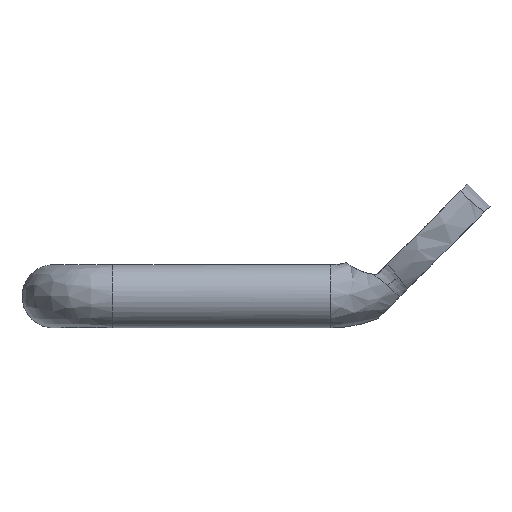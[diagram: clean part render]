
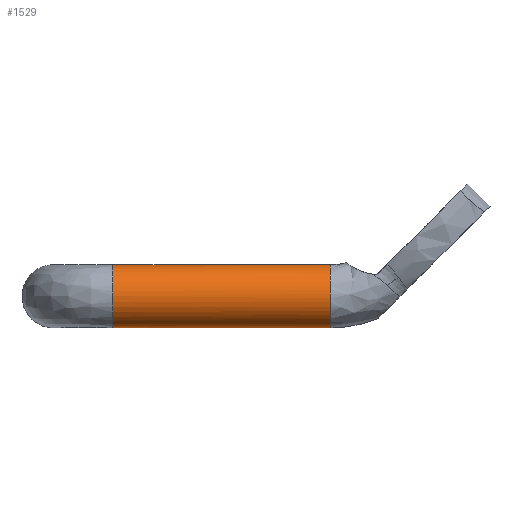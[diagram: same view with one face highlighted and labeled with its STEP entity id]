
A CAD part, left-side view. The second image highlights one B-rep face of the part: STEP entity #1529.
In plain terms, the highlighted cylindrical face has radius 4 mm (diameter 8 mm), a partial arc.
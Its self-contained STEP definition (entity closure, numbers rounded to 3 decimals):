
#35 = ORIENTED_EDGE ( 'NONE', *, *, #1481, .T. ) ;
#131 = AXIS2_PLACEMENT_3D ( 'NONE', #1659, #1035, #1808 ) ;
#201 = CARTESIAN_POINT ( 'NONE',  ( -50., 32.5, -4. ) ) ;
#238 =( BOUNDED_CURVE ( )  B_SPLINE_CURVE ( 3, ( #1841, #1207, #1700, #1385, #899, #2015, #1708 ),
 .UNSPECIFIED., .F., .F. ) 
 B_SPLINE_CURVE_WITH_KNOTS ( ( 4, 3, 4 ),
 ( 0., 0.5, 1. ),
 .UNSPECIFIED. ) 
 CURVE ( )  GEOMETRIC_REPRESENTATION_ITEM ( )  RATIONAL_B_SPLINE_CURVE ( ( 0.974, 0.79, 0.799, 1., 0.799, 0.79, 0.974 ) ) 
 REPRESENTATION_ITEM ( '' )  );
#277 = EDGE_LOOP ( 'NONE', ( #1973, #948, #35, #1707 ) ) ;
#337 = FACE_OUTER_BOUND ( 'NONE', #277, .T. ) ;
#348 = VERTEX_POINT ( 'NONE', #1124 ) ;
#369 = CARTESIAN_POINT ( 'NONE',  ( -50., 32.5, 4. ) ) ;
#383 = VECTOR ( 'NONE', #1789, 1000. ) ;
#408 = EDGE_CURVE ( 'NONE', #557, #943, #1075, .T. ) ;
#471 = DIRECTION ( 'NONE',  ( 0., 0., -1. ) ) ;
#506 = VERTEX_POINT ( 'NONE', #1307 ) ;
#557 = VERTEX_POINT ( 'NONE', #369 ) ;
#899 = CARTESIAN_POINT ( 'NONE',  ( -54., 4.97, -2.331 ) ) ;
#943 = VERTEX_POINT ( 'NONE', #1525 ) ;
#948 = ORIENTED_EDGE ( 'NONE', *, *, #408, .T. ) ;
#1035 = DIRECTION ( 'NONE',  ( 0., -1., 0. ) ) ;
#1075 = CIRCLE ( 'NONE', #1939, 4. ) ;
#1082 = DIRECTION ( 'NONE',  ( 0., -1., 0. ) ) ;
#1124 = CARTESIAN_POINT ( 'NONE',  ( -50., 4.97, -4. ) ) ;
#1174 = CYLINDRICAL_SURFACE ( 'NONE', #131, 4. ) ;
#1207 = CARTESIAN_POINT ( 'NONE',  ( -52.356, 4.97, 4. ) ) ;
#1212 = EDGE_CURVE ( 'NONE', #506, #348, #238, .T. ) ;
#1281 = EDGE_CURVE ( 'NONE', #557, #506, #1565, .T. ) ;
#1307 = CARTESIAN_POINT ( 'NONE',  ( -50., 4.97, 4. ) ) ;
#1379 = LINE ( 'NONE', #201, #383 ) ;
#1385 = CARTESIAN_POINT ( 'NONE',  ( -54., 4.97, 0. ) ) ;
#1421 = CARTESIAN_POINT ( 'NONE',  ( -50., 32.5, 0. ) ) ;
#1469 = VECTOR ( 'NONE', #1082, 1000. ) ;
#1481 = EDGE_CURVE ( 'NONE', #943, #348, #1379, .T. ) ;
#1525 = CARTESIAN_POINT ( 'NONE',  ( -50., 32.5, -4. ) ) ;
#1529 = ADVANCED_FACE ( 'NONE', ( #337 ), #1174, .T. ) ;
#1565 = LINE ( 'NONE', #2054, #1469 ) ;
#1597 = DIRECTION ( 'NONE',  ( 0., -1., 0. ) ) ;
#1659 = CARTESIAN_POINT ( 'NONE',  ( -50., 32.5, 0. ) ) ;
#1700 = CARTESIAN_POINT ( 'NONE',  ( -54., 4.97, 2.331 ) ) ;
#1707 = ORIENTED_EDGE ( 'NONE', *, *, #1212, .F. ) ;
#1708 = CARTESIAN_POINT ( 'NONE',  ( -50., 4.97, -4. ) ) ;
#1789 = DIRECTION ( 'NONE',  ( 0., -1., 0. ) ) ;
#1808 = DIRECTION ( 'NONE',  ( 0., 0., -1. ) ) ;
#1841 = CARTESIAN_POINT ( 'NONE',  ( -50., 4.97, 4. ) ) ;
#1939 = AXIS2_PLACEMENT_3D ( 'NONE', #1421, #1597, #471 ) ;
#1973 = ORIENTED_EDGE ( 'NONE', *, *, #1281, .F. ) ;
#2015 = CARTESIAN_POINT ( 'NONE',  ( -52.356, 4.97, -4. ) ) ;
#2054 = CARTESIAN_POINT ( 'NONE',  ( -50., 32.5, 4. ) ) ;
